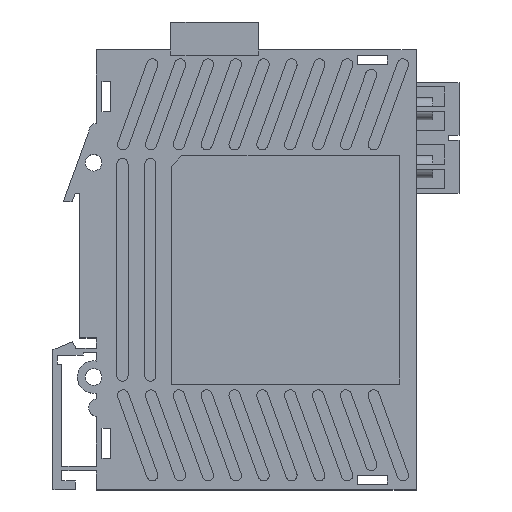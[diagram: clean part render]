
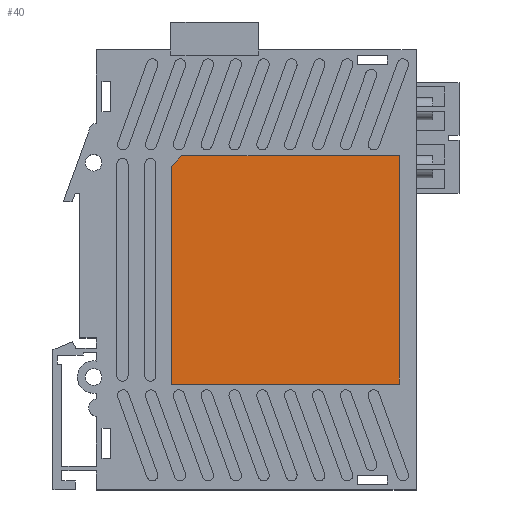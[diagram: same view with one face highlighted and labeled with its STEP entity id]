
A CAD part, top view. The second image highlights one B-rep face of the part: STEP entity #40.
In plain terms, the highlighted planar face has unit normal (0, 0, 1).
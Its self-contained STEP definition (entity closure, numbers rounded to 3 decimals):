
#40 = ADVANCED_FACE ( 'NONE', ( #15652 ), #23907, .F. ) ;
#5202 = AXIS2_PLACEMENT_3D ( 'NONE', #23884, #23912, #23915 ) ;
#15652 = FACE_OUTER_BOUND ( 'NONE', #53407, .T. ) ;
#23884 = CARTESIAN_POINT ( 'NONE',  ( 44.236, 33.343, 3.65 ) ) ;
#23907 = PLANE ( 'NONE',  #5202 ) ;
#23912 = DIRECTION ( 'NONE',  ( 0., 0., -1. ) ) ;
#23915 = DIRECTION ( 'NONE',  ( -1., 0., 0. ) ) ;
#40802 = VERTEX_POINT ( 'NONE', #49522 ) ;
#46041 = LINE ( 'NONE', #53324, #46044 ) ;
#46043 = LINE ( 'NONE', #53281, #46048 ) ;
#46044 = VECTOR ( 'NONE', #53328, 1000. ) ;
#46045 = LINE ( 'NONE', #53326, #46052 ) ;
#46048 = VECTOR ( 'NONE', #53335, 1000. ) ;
#46049 = LINE ( 'NONE', #53333, #46056 ) ;
#46052 = VECTOR ( 'NONE', #53344, 1000. ) ;
#46053 = LINE ( 'NONE', #53340, #46060 ) ;
#46056 = VECTOR ( 'NONE', #53353, 1000. ) ;
#46060 = VECTOR ( 'NONE', #53362, 1000. ) ;
#49522 = CARTESIAN_POINT ( 'NONE',  ( -7.834, -18.727, 3.65 ) ) ;
#51246 = CARTESIAN_POINT ( 'NONE',  ( 44.236, 33.343, 3.65 ) ) ;
#51258 = CARTESIAN_POINT ( 'NONE',  ( -7.834, 30.876, 3.65 ) ) ;
#51514 = CARTESIAN_POINT ( 'NONE',  ( 44.236, -18.727, 3.65 ) ) ;
#51519 = CARTESIAN_POINT ( 'NONE',  ( -5.367, 33.343, 3.65 ) ) ;
#53281 = CARTESIAN_POINT ( 'NONE',  ( -7.834, -103.094, 3.65 ) ) ;
#53324 = CARTESIAN_POINT ( 'NONE',  ( -130.208, -91.498, 3.65 ) ) ;
#53326 = CARTESIAN_POINT ( 'NONE',  ( -118.612, -18.727, 3.65 ) ) ;
#53328 = DIRECTION ( 'NONE',  ( 0.707, 0.707, 0. ) ) ;
#53333 = CARTESIAN_POINT ( 'NONE',  ( 44.236, -103.094, 3.65 ) ) ;
#53335 = DIRECTION ( 'NONE',  ( 0., 1., 0. ) ) ;
#53340 = CARTESIAN_POINT ( 'NONE',  ( -118.612, 33.343, 3.65 ) ) ;
#53344 = DIRECTION ( 'NONE',  ( -1., 0., 0. ) ) ;
#53353 = DIRECTION ( 'NONE',  ( 0., -1., 0. ) ) ;
#53362 = DIRECTION ( 'NONE',  ( 1., 0., 0. ) ) ;
#53407 = EDGE_LOOP ( 'NONE', ( #66865, #66834, #66987, #67037, #66854 ) ) ;
#60967 = VERTEX_POINT ( 'NONE', #51246 ) ;
#60979 = VERTEX_POINT ( 'NONE', #51258 ) ;
#61373 = VERTEX_POINT ( 'NONE', #51514 ) ;
#61382 = VERTEX_POINT ( 'NONE', #51519 ) ;
#64786 = EDGE_CURVE ( 'NONE', #60979, #61382, #46041, .T. ) ;
#64790 = EDGE_CURVE ( 'NONE', #40802, #60979, #46043, .T. ) ;
#64794 = EDGE_CURVE ( 'NONE', #61373, #40802, #46045, .T. ) ;
#64798 = EDGE_CURVE ( 'NONE', #60967, #61373, #46049, .T. ) ;
#64803 = EDGE_CURVE ( 'NONE', #61382, #60967, #46053, .T. ) ;
#66834 = ORIENTED_EDGE ( 'NONE', *, *, #64786, .F. ) ;
#66854 = ORIENTED_EDGE ( 'NONE', *, *, #64798, .F. ) ;
#66865 = ORIENTED_EDGE ( 'NONE', *, *, #64803, .F. ) ;
#66987 = ORIENTED_EDGE ( 'NONE', *, *, #64790, .F. ) ;
#67037 = ORIENTED_EDGE ( 'NONE', *, *, #64794, .F. ) ;
